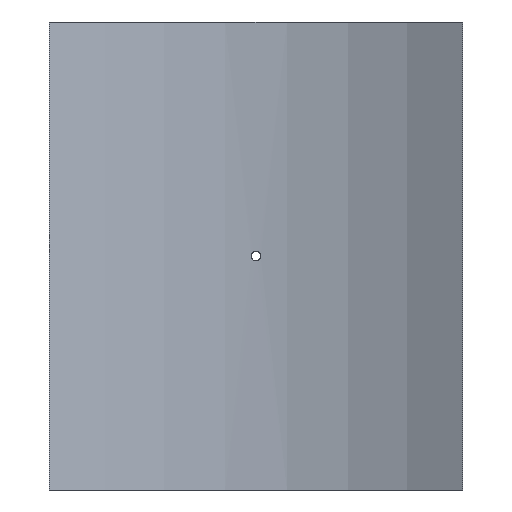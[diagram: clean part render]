
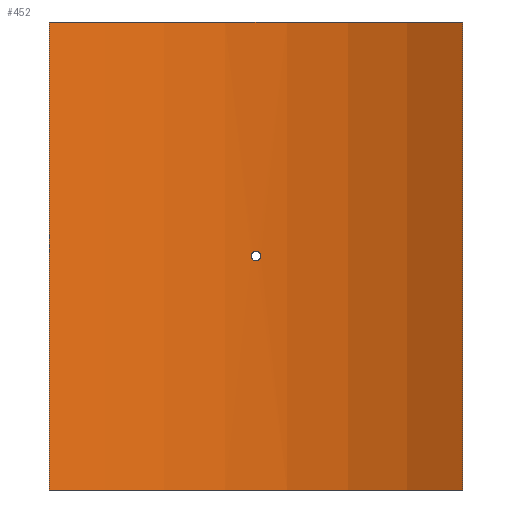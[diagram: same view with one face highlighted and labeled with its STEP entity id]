
A CAD part, front view. The second image highlights one B-rep face of the part: STEP entity #452.
In plain terms, the highlighted cylindrical face has radius 400 mm (diameter 800 mm), a partial arc.
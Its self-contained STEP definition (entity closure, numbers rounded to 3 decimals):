
#19=B_SPLINE_CURVE_WITH_KNOTS('',3,(#788,#789,#790,#791,#792,#793,#794,
#795,#796,#797,#798,#799,#800,#801,#802,#803,#804,#805,#806,#807,#808,#809,
#810,#811,#812,#813,#814,#815,#816,#817,#818,#819,#820,#821),
 .UNSPECIFIED.,.T.,.F.,(4,2,2,2,2,2,2,2,2,2,2,2,2,2,2,2,4),(0.,0.181,
0.362,0.542,0.723,0.904,1.085,
1.266,1.446,1.627,1.808,1.989,
2.17,2.351,2.531,2.712,2.893),
 .UNSPECIFIED.);
#43=LINE('',#1065,#62);
#44=LINE('',#1068,#63);
#62=VECTOR('',#661,10.);
#63=VECTOR('',#664,10.);
#76=CYLINDRICAL_SURFACE('',#530,400.);
#88=FACE_BOUND('',#167,.T.);
#127=FACE_OUTER_BOUND('',#166,.T.);
#166=EDGE_LOOP('',(#405,#406,#407,#408));
#167=EDGE_LOOP('',(#409));
#201=CIRCLE('',#529,400.);
#202=CIRCLE('',#531,400.);
#219=VERTEX_POINT('',#786);
#242=VERTEX_POINT('',#1058);
#243=VERTEX_POINT('',#1060);
#244=VERTEX_POINT('',#1064);
#245=VERTEX_POINT('',#1066);
#267=EDGE_CURVE('',#219,#219,#19,.T.);
#299=EDGE_CURVE('',#242,#243,#201,.T.);
#301=EDGE_CURVE('',#244,#242,#43,.T.);
#302=EDGE_CURVE('',#245,#244,#202,.T.);
#303=EDGE_CURVE('',#245,#243,#44,.T.);
#405=ORIENTED_EDGE('',*,*,#301,.F.);
#406=ORIENTED_EDGE('',*,*,#302,.F.);
#407=ORIENTED_EDGE('',*,*,#303,.T.);
#408=ORIENTED_EDGE('',*,*,#299,.F.);
#409=ORIENTED_EDGE('',*,*,#267,.T.);
#452=ADVANCED_FACE('',(#127,#88),#76,.F.);
#529=AXIS2_PLACEMENT_3D('',#1061,#656,#657);
#530=AXIS2_PLACEMENT_3D('',#1063,#659,#660);
#531=AXIS2_PLACEMENT_3D('',#1067,#662,#663);
#656=DIRECTION('center_axis',(0.,0.,1.));
#657=DIRECTION('ref_axis',(0.519,0.855,0.));
#659=DIRECTION('center_axis',(0.,0.,1.));
#660=DIRECTION('ref_axis',(0.519,0.855,0.));
#661=DIRECTION('',(0.,0.,-1.));
#662=DIRECTION('center_axis',(0.,0.,-1.));
#663=DIRECTION('ref_axis',(0.519,0.855,0.));
#664=DIRECTION('',(0.,0.,-1.));
#786=CARTESIAN_POINT('',(4.8,399.971,0.));
#788=CARTESIAN_POINT('Ctrl Pts',(4.8,399.971,0.));
#789=CARTESIAN_POINT('Ctrl Pts',(4.8,399.971,-0.603));
#790=CARTESIAN_POINT('Ctrl Pts',(4.68,399.973,-1.246));
#791=CARTESIAN_POINT('Ctrl Pts',(4.19,399.978,-2.428));
#792=CARTESIAN_POINT('Ctrl Pts',(3.82,399.982,-2.968));
#793=CARTESIAN_POINT('Ctrl Pts',(2.968,399.989,-3.82));
#794=CARTESIAN_POINT('Ctrl Pts',(2.428,399.993,-4.19));
#795=CARTESIAN_POINT('Ctrl Pts',(1.246,399.998,-4.68));
#796=CARTESIAN_POINT('Ctrl Pts',(0.603,400.,-4.8));
#797=CARTESIAN_POINT('Ctrl Pts',(-0.603,400.,-4.8));
#798=CARTESIAN_POINT('Ctrl Pts',(-1.246,399.998,-4.68));
#799=CARTESIAN_POINT('Ctrl Pts',(-2.428,399.993,-4.19));
#800=CARTESIAN_POINT('Ctrl Pts',(-2.968,399.989,-3.82));
#801=CARTESIAN_POINT('Ctrl Pts',(-3.82,399.982,-2.968));
#802=CARTESIAN_POINT('Ctrl Pts',(-4.19,399.978,-2.428));
#803=CARTESIAN_POINT('Ctrl Pts',(-4.68,399.973,-1.246));
#804=CARTESIAN_POINT('Ctrl Pts',(-4.8,399.971,-0.603));
#805=CARTESIAN_POINT('Ctrl Pts',(-4.8,399.971,0.603));
#806=CARTESIAN_POINT('Ctrl Pts',(-4.68,399.973,1.246));
#807=CARTESIAN_POINT('Ctrl Pts',(-4.19,399.978,2.428));
#808=CARTESIAN_POINT('Ctrl Pts',(-3.82,399.982,2.968));
#809=CARTESIAN_POINT('Ctrl Pts',(-2.968,399.989,3.82));
#810=CARTESIAN_POINT('Ctrl Pts',(-2.428,399.993,4.19));
#811=CARTESIAN_POINT('Ctrl Pts',(-1.246,399.998,4.68));
#812=CARTESIAN_POINT('Ctrl Pts',(-0.603,400.,4.8));
#813=CARTESIAN_POINT('Ctrl Pts',(0.603,400.,4.8));
#814=CARTESIAN_POINT('Ctrl Pts',(1.246,399.998,4.68));
#815=CARTESIAN_POINT('Ctrl Pts',(2.428,399.993,4.19));
#816=CARTESIAN_POINT('Ctrl Pts',(2.968,399.989,3.82));
#817=CARTESIAN_POINT('Ctrl Pts',(3.82,399.982,2.968));
#818=CARTESIAN_POINT('Ctrl Pts',(4.19,399.978,2.428));
#819=CARTESIAN_POINT('Ctrl Pts',(4.68,399.973,1.246));
#820=CARTESIAN_POINT('Ctrl Pts',(4.8,399.971,0.603));
#821=CARTESIAN_POINT('Ctrl Pts',(4.8,399.971,0.));
#1058=CARTESIAN_POINT('',(207.5,341.97,-235.));
#1060=CARTESIAN_POINT('',(-207.5,341.97,-235.));
#1061=CARTESIAN_POINT('Origin',(0.,0.,
-235.));
#1063=CARTESIAN_POINT('Origin',(0.,0.,
0.));
#1064=CARTESIAN_POINT('',(207.5,341.97,235.));
#1065=CARTESIAN_POINT('',(207.5,341.97,0.));
#1066=CARTESIAN_POINT('',(-207.5,341.97,235.));
#1067=CARTESIAN_POINT('Origin',(0.,0.,
235.));
#1068=CARTESIAN_POINT('',(-207.5,341.97,0.));
